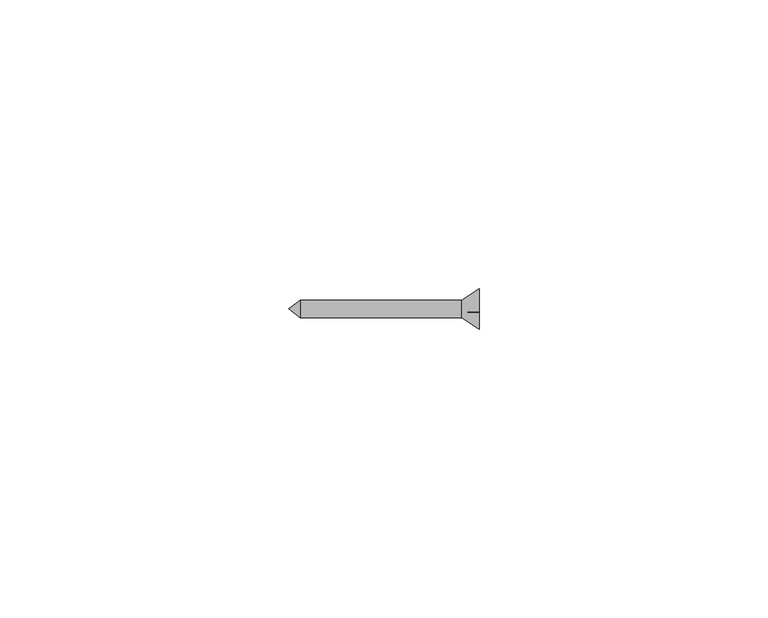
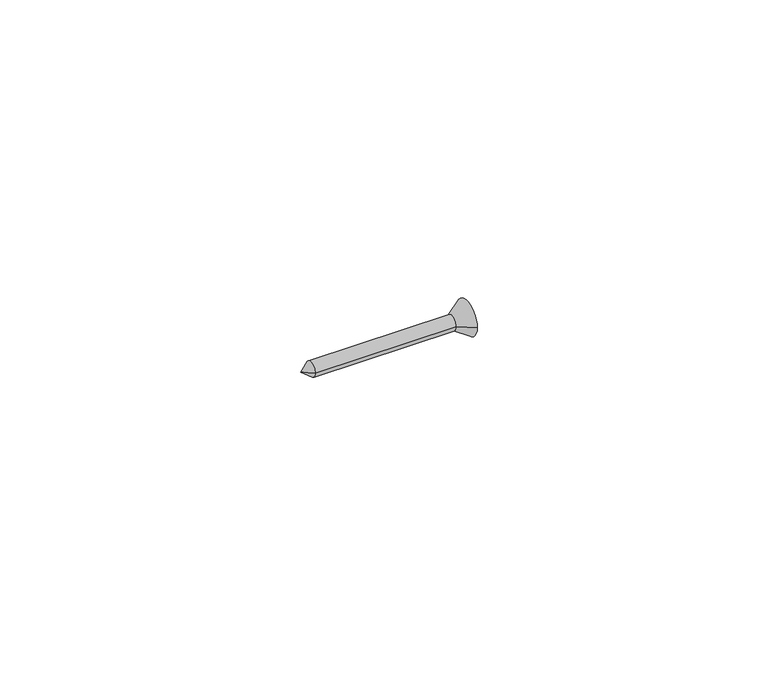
"""IFC4 building model written with IfcOpenShell, lengths in millimetres: furniture geometry, Parafuso de Madeira 30mm x 3mm : Parafuso de Madeira 30mm x 3mm."""

from ifc_helpers import new_model, si_unit, frame, origin, place, context, project, spatial, polyline, circle_curve, source, transform, mapped, element, save
from ifc_brep_helpers import plane_surface, cylinder_surface, revolved_surface, advanced_brep


def furniture_fed28840(model_context):
    return source(origin(), model_context, "Body", "AdvancedBrep", [
        advanced_brep(
        [(0.0, 0.0, 0.0), (2.0, 1.5, 0.0), (2.0, -1.5, 0.0), (33.0, -3.5, 0.0), (33.0, 3.5, 0.0), (33.0, 1.3552589, 0.0), (33.0, 1.3552589, -0.55), (33.0, 0.5565018, -0.55), (33.0, 0.5583048, -1.3487558), (33.0, -0.5416924, -1.3512388), (33.0, -0.543501, -0.55), (33.0, -1.3447411, -0.55), (33.0, -1.3447411, 0.0), (33.0, -1.3447411, 0.55), (33.0, -0.5459841, 0.55), (33.0, -0.5477871, 1.3487558), (33.0, 0.5522101, 1.3512388), (33.0, 0.5540187, 0.55), (33.0, 1.3552589, 0.55), (30.0, -1.5, 0.0), (30.0, 1.5, 0.0), (31.0, -0.5459841, 0.55), (31.0, -1.3447411, 0.55), (31.0, -1.3447411, -0.55), (31.0, -0.543501, -0.55), (31.0, -0.5416924, -1.3512388), (31.0, 0.5583048, -1.3487558), (31.0, 0.5565018, -0.55), (31.0, 1.3552589, -0.55), (31.0, 1.3552589, 0.55), (31.0, 0.5540187, 0.55), (31.0, 0.5522101, 1.3512388), (31.0, -0.5477871, 1.3487558)],
        [
            (0, 1),
            (1, 2, circle_curve(frame((2.0, 0.0, 0.0), z_axis=(-1.0, 0.0, 0.0), x_axis=(0.0, 1.0, 0.0)), 1.5)),
            (2, 0),
            (2, 1, circle_curve(frame((2.0, 0.0, 0.0), z_axis=(-1.0, 0.0, 0.0), x_axis=(0.0, 1.0, 0.0)), 1.5)),
            (3, 4, circle_curve(frame((33.0, 0.0, 0.0), z_axis=(1.0, 0.0, 0.0), x_axis=(0.0, 1.0, 0.0)), 3.5)),
            (4, 5),
            (5, 6),
            (6, 7),
            (7, 8),
            (8, 9),
            (9, 10),
            (10, 11),
            (11, 12),
            (12, 3),
            (4, 3, circle_curve(frame((33.0, 0.0, 0.0), z_axis=(1.0, 0.0, 0.0), x_axis=(0.0, 1.0, 0.0)), 3.5)),
            (12, 13),
            (13, 14),
            (14, 15),
            (15, 16),
            (16, 17),
            (17, 18),
            (18, 5),
            (3, 19),
            (19, 20, circle_curve(frame((30.0, 0.0, 0.0), z_axis=(1.0, 0.0, 0.0), x_axis=(0.0, 1.0, 0.0)), 1.5)),
            (20, 4),
            (20, 19, circle_curve(frame((30.0, 0.0, 0.0), z_axis=(1.0, 0.0, 0.0), x_axis=(0.0, 1.0, 0.0)), 1.5)),
            (21, 22),
            (22, 23),
            (23, 24),
            (24, 25),
            (25, 26),
            (26, 27),
            (27, 28),
            (28, 29),
            (29, 30),
            (30, 31),
            (31, 32),
            (32, 21),
            (32, 15),
            (14, 21),
            (31, 16),
            (30, 17),
            (29, 18),
            (28, 6),
            (27, 7),
            (26, 8),
            (25, 9),
            (24, 10),
            (23, 11),
            (22, 13),
            (1, 20),
            (19, 2),
        ],
        [
            revolved_surface(polyline([(2.0, 1.5, 0.0), (0.0, 0.0, 0.0)]), (0.0, 0.0, 0.0), (-1.0, 0.0, 0.0)),
            plane_surface(frame((33.0, 0.0, 0.0), z_axis=(1.0, 0.0, 0.0), x_axis=(0.0, 1.0, 0.0))),
            revolved_surface(polyline([(33.0, 3.5, 0.0), (30.0, 1.5, 0.0)]), (0.0, 0.0, 0.0), (-1.0, 0.0, 0.0)),
            plane_surface(frame((31.0, -0.5410152, -1.6512373), z_axis=(1.0, 0.0, 0.0), x_axis=(0.0, -0.002257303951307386, 0.9999974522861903))),
            plane_surface(frame((31.0, -0.5459841, 0.55), z_axis=(0.0, 0.9999974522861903, 0.002257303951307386), x_axis=(1.0, 0.0, 0.0))),
            plane_surface(frame((31.0, -0.5477871, 1.3487558), z_axis=(0.0, 0.0022573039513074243, -0.9999974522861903), x_axis=(1.0, 0.0, 0.0))),
            plane_surface(frame((31.0, 0.5522101, 1.3512388), z_axis=(0.0, -0.9999974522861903, -0.002257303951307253), x_axis=(1.0, 0.0, 0.0))),
            plane_surface(frame((31.0, 0.5540187, 0.55), z_axis=(0.0, 0.0, -1.0), x_axis=(1.0, 0.0, 0.0))),
            plane_surface(frame((31.0, 1.3552589, 0.55), z_axis=(0.0, -1.0, 0.0), x_axis=(1.0, 0.0, 0.0))),
            plane_surface(frame((31.0, 1.3552589, -0.55), z_axis=(0.0, 0.0, 1.0), x_axis=(1.0, 0.0, 0.0))),
            plane_surface(frame((31.0, 0.5565018, -0.55), z_axis=(0.0, -0.9999974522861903, -0.0022573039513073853), x_axis=(1.0, 0.0, 0.0))),
            plane_surface(frame((31.0, 0.5583048, -1.3487558), z_axis=(0.0, -0.0022573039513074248, 0.9999974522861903), x_axis=(1.0, 0.0, 0.0))),
            plane_surface(frame((31.0, -0.5416924, -1.3512388), z_axis=(0.0, 0.9999974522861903, 0.0022573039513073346), x_axis=(1.0, 0.0, 0.0))),
            plane_surface(frame((31.0, -0.543501, -0.55), z_axis=(0.0, 0.0, 1.0), x_axis=(1.0, 0.0, 0.0))),
            plane_surface(frame((31.0, -1.3447411, -0.55), z_axis=(0.0, 1.0, 0.0), x_axis=(1.0, 0.0, 0.0))),
            plane_surface(frame((31.0, -1.3447411, 0.55), z_axis=(0.0, 0.0, -1.0), x_axis=(1.0, 0.0, 0.0))),
            cylinder_surface(frame((0.0, 0.0, 0.0), z_axis=(-1.0, 0.0, 0.0), x_axis=(0.0, 1.0, 0.0)), 1.5),
        ],
        [
            (0, [[1, 2, 3]]),
            (0, [[-1, -3, 4]]),
            (1, [[5, 6, 7, 8, 9, 10, 11, 12, 13, 14]]),
            (1, [[15, -14, 16, 17, 18, 19, 20, 21, 22, -6]]),
            (2, [[-5, 23, 24, 25]]),
            (2, [[-15, -25, 26, -23]]),
            (3, [[27, 28, 29, 30, 31, 32, 33, 34, 35, 36, 37, 38]]),
            (4, [[-38, 39, -18, 40]]),
            (5, [[-37, 41, -19, -39]]),
            (6, [[-36, 42, -20, -41]]),
            (7, [[-35, 43, -21, -42]]),
            (8, [[-34, 44, -7, -22, -43]]),
            (9, [[-33, 45, -8, -44]]),
            (10, [[-32, 46, -9, -45]]),
            (11, [[-31, 47, -10, -46]]),
            (12, [[-30, 48, -11, -47]]),
            (13, [[-29, 49, -12, -48]]),
            (14, [[-28, 50, -16, -13, -49]]),
            (15, [[-27, -40, -17, -50]]),
            (16, [[-2, 51, -24, 52]]),
            (16, [[-4, -52, -26, -51]]),
        ],
    ),
    ])


if __name__ == "__main__":
    model = new_model("IFC4")
    model_context = context("Model", 3, world=origin())
    ifc_project = project(units=[si_unit("LENGTHUNIT", "METRE", prefix="MILLI")], contexts=[model_context])
    site = spatial("IfcSite", under=ifc_project)
    building = spatial("IfcBuilding", under=site)
    placement = place(None, origin())
    furniture_shape = furniture_fed28840(model_context)
    element("IfcFurniture", 1, ObjectType="Parafuso de Madeira 30mm x 3mm : Parafuso de Madeira 30mm x 3mm", at=placement, inside=building, context=model_context, shape_type="MappedRepresentation", body=[
        mapped(furniture_shape, transform((0.0, 0.0, 0.0), x_axis=(1.0, 0.0, 0.0), y_axis=(0.0, 1.0, 0.0), z_axis=(0.0, 0.0, 1.0))),
    ])
    save(model, "model.ifc")
